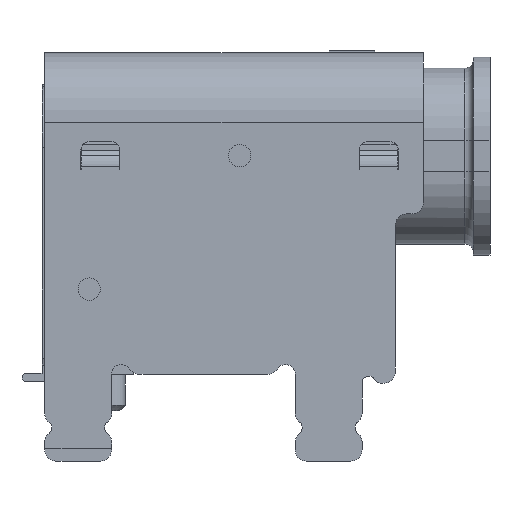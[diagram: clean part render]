
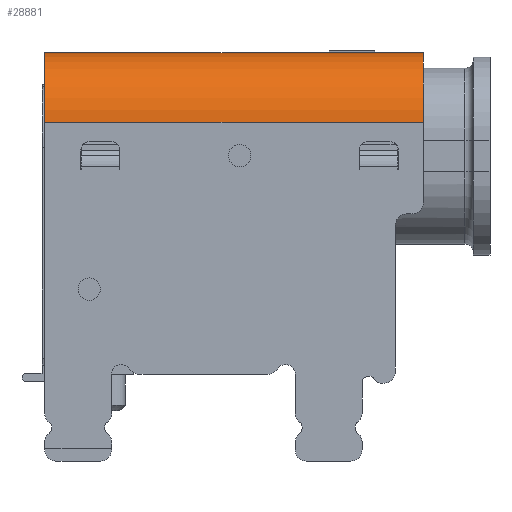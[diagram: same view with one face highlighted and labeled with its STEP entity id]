
A CAD part, front view. The second image highlights one B-rep face of the part: STEP entity #28881.
In plain terms, the highlighted cylindrical face has radius 1.25 mm (diameter 2.5 mm), a partial arc.
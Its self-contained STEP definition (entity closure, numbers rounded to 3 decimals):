
#26172=CARTESIAN_POINT('',(0.0,-3.485,0.0));
#26173=VERTEX_POINT('',#26172);
#26214=CARTESIAN_POINT('',(-0.0,-4.735,-1.25));
#26215=VERTEX_POINT('',#26214);
#26222=CARTESIAN_POINT('',(-0.0,-3.485,-1.25));
#26223=DIRECTION('',(-1.0,-0.0,0.0));
#26224=DIRECTION('',(-0.0,1.0,0.0));
#26225=AXIS2_PLACEMENT_3D('',#26222,#26223,#26224);
#26226=CIRCLE('',#26225,1.25);
#26227=EDGE_CURVE('no 11436',#26215,#26173,#26226,.T.);
#26525=CARTESIAN_POINT('',(6.8,-3.485,0.0));
#26526=VERTEX_POINT('',#26525);
#26533=CARTESIAN_POINT('',(6.8,-4.735,-1.25));
#26534=VERTEX_POINT('',#26533);
#26535=CARTESIAN_POINT('',(6.8,-3.485,-1.25));
#26536=DIRECTION('',(-1.0,0.0,0.0));
#26537=DIRECTION('',(0.0,1.0,0.0));
#26538=AXIS2_PLACEMENT_3D('',#26535,#26536,#26537);
#26539=CIRCLE('',#26538,1.25);
#26540=EDGE_CURVE('no 19953',#26534,#26526,#26539,.T.);
#27313=CARTESIAN_POINT('',(7.1,-3.485,0.0));
#27314=DIRECTION('',(-1.0,0.0,0.0));
#27315=VECTOR('',#27314,1.0);
#27316=LINE('',#27313,#27315);
#27317=EDGE_CURVE('no 4538',#26526,#26173,#27316,.T.);
#28571=CARTESIAN_POINT('',(7.1,-4.735,-1.25));
#28572=DIRECTION('',(-1.0,0.0,0.0));
#28573=VECTOR('',#28572,1.0);
#28574=LINE('',#28571,#28573);
#28575=EDGE_CURVE('no 21352',#26534,#26215,#28574,.T.);
#28870=ORIENTED_EDGE('no 22493',*,*,#26227,.F.);
#28871=ORIENTED_EDGE('no 34707',*,*,#28575,.F.);
#28872=ORIENTED_EDGE('no 29147',*,*,#26540,.T.);
#28873=ORIENTED_EDGE('no 36715',*,*,#27317,.T.);
#28874=EDGE_LOOP('',(#28870,#28871,#28872,#28873));
#28875=FACE_OUTER_BOUND('',#28874,.T.);
#28876=CARTESIAN_POINT('',(7.1,-3.485,-1.25));
#28877=DIRECTION('',(-1.0,0.0,0.0));
#28878=DIRECTION('',(-0.0,0.707,-0.707));
#28879=AXIS2_PLACEMENT_3D('',#28876,#28877,#28878);
#28880=CYLINDRICAL_SURFACE('',#28879,1.25);
#28881=ADVANCED_FACE('no 20790',(#28875),#28880,.T.);
